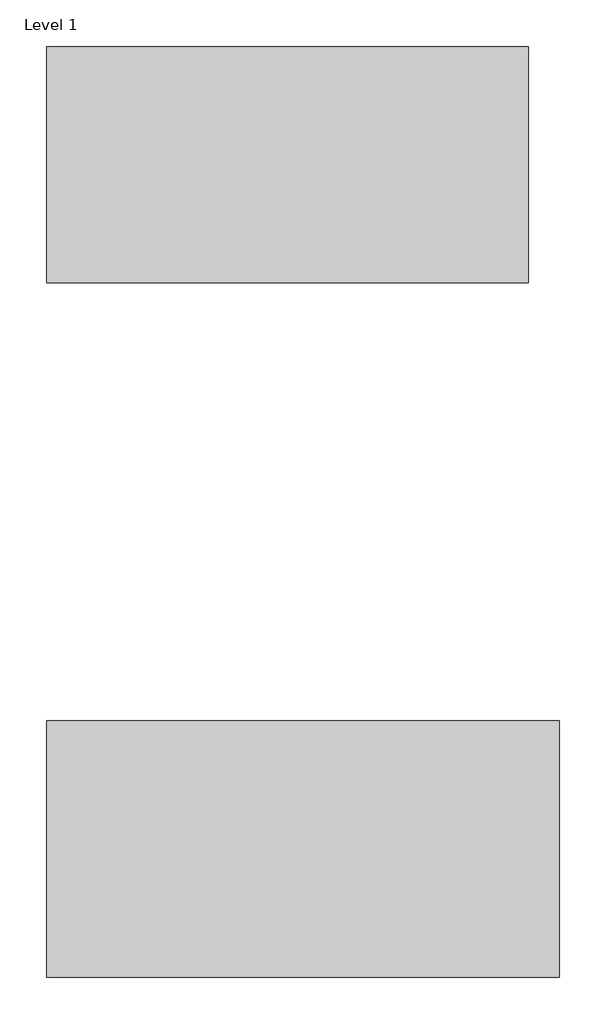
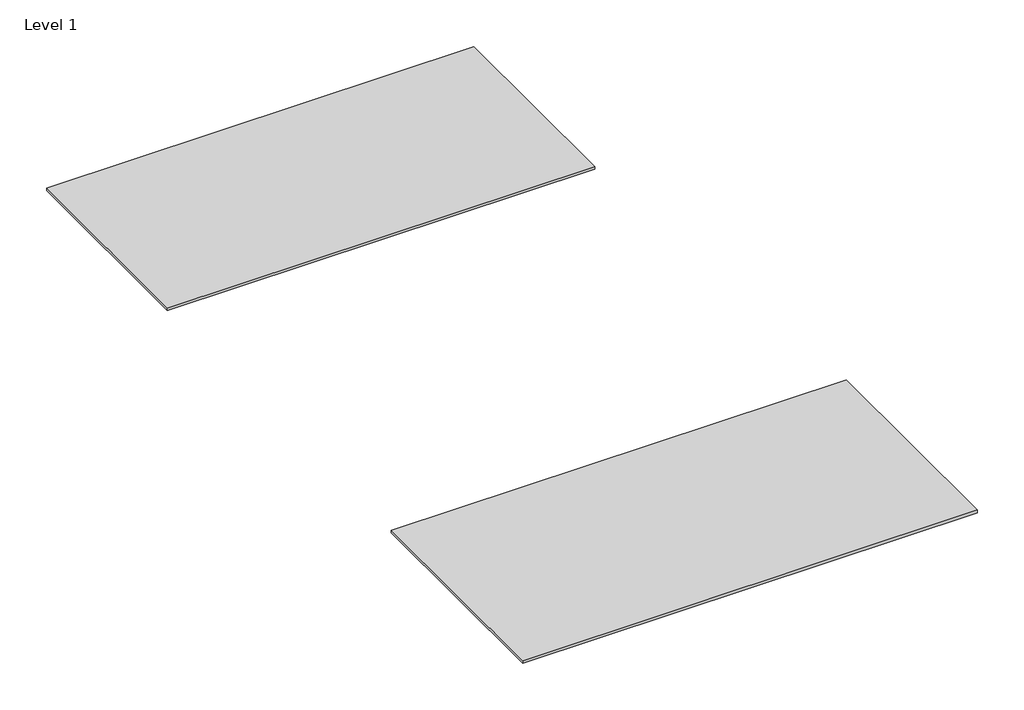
# One storey: 2 furniture elements.
"""IFC4 building model written with IfcOpenShell, lengths in millimetres."""

import ifcopenshell
import ifcopenshell.guid

model = None  # the IFC model being written
_history = None  # IfcOwnerHistory: only IFC2X3 demands one
_inside = {}  # id of a spatial element -> (the spatial element, [elements in it])
_under = {}  # id of a project, library or spatial element -> (it, [spatial elements below it])
_declared = {}  # id of a project -> (the project, [libraries it declares])
_typed = {}  # id of a type object -> (the type object, [elements of that type])
_made_of = {}  # id of a material, layer set ... -> (it, [elements and type objects made of it])


def new_model(schema):
    """Start an empty IFC model of exactly this schema.

    Asked for "IFC4X3", IfcOpenShell would pick the latest addendum, in which some entities
    have other attributes; the version numbers below select the first issue.
    IFC2X3 requires an IfcOwnerHistory on every rooted entity: one is made here for all.
    """
    global model, _history
    if schema == "IFC4X3":
        model = ifcopenshell.file(schema_version=(4, 3, 0, 0))
    else:
        model = ifcopenshell.file(schema=schema)
    _inside.clear()
    _under.clear()
    _declared.clear()
    _typed.clear()
    _made_of.clear()
    _history = None
    if model.schema == "IFC2X3":
        org = make("IfcOrganization", Name="unknown")
        user = make(
            "IfcPersonAndOrganization",
            ThePerson=make("IfcPerson", FamilyName="unknown"),
            TheOrganization=org,
        )
        app = make(
            "IfcApplication",
            ApplicationDeveloper=org,
            Version="unknown",
            ApplicationFullName="unknown",
            ApplicationIdentifier="unknown",
        )
        _history = make(
            "IfcOwnerHistory",
            OwningUser=user,
            OwningApplication=app,
            ChangeAction="ADDED",
            CreationDate=0,
        )
    return model


def make(cls, **values):
    """One entity of the class cls with the attributes given. An attribute that is None is left unset."""
    return model.create_entity(
        cls, **{name: value for name, value in values.items() if value is not None}
    )


def rooted(cls, **values):
    """An entity with a GlobalId (a new one), such as an element, a storey or a relation."""
    return make(cls, GlobalId=ifcopenshell.guid.new(), OwnerHistory=_history, **values)


def si_unit(unit_type, name, prefix=None):
    """IfcSIUnit, for example si_unit("LENGTHUNIT", "METRE", prefix="MILLI")."""
    return make("IfcSIUnit", UnitType=unit_type, Prefix=prefix, Name=name)


def assignment(units):
    """IfcUnitAssignment: the units of a project."""
    return None if units is None else make("IfcUnitAssignment", Units=units)


def point(xyz):
    """IfcCartesianPoint."""
    return None if xyz is None else make("IfcCartesianPoint", Coordinates=xyz)


def direction(xyz):
    """IfcDirection."""
    return None if xyz is None else make("IfcDirection", DirectionRatios=xyz)


def frame(location, z_axis=None, x_axis=None):
    """IfcAxis2Placement3D, a coordinate frame: its origin and axes. An axis left out is left unset."""
    return make(
        "IfcAxis2Placement3D",
        Location=point(location),
        Axis=direction(z_axis),
        RefDirection=direction(x_axis),
    )


def origin():
    """The frame at (0, 0, 0) with its axes left unset."""
    return frame((0.0, 0.0, 0.0))


def origin_with_axes():
    """The frame at (0, 0, 0) with the z axis (0, 0, 1) and the x axis (1, 0, 0) written out."""
    return frame((0.0, 0.0, 0.0), z_axis=(0.0, 0.0, 1.0), x_axis=(1.0, 0.0, 0.0))


def place(relative_to, where):
    """IfcLocalPlacement: puts the frame where relative to a parent placement (None: the world)."""
    return make(
        "IfcLocalPlacement", PlacementRelTo=relative_to, RelativePlacement=where
    )


def context(
    kind, dimensions, precision=None, world=None, true_north=None, identifier=None
):
    """IfcGeometricRepresentationContext, for example the 3D "Model" context."""
    return make(
        "IfcGeometricRepresentationContext",
        ContextIdentifier=identifier,
        ContextType=kind,
        CoordinateSpaceDimension=dimensions,
        Precision=precision,
        WorldCoordinateSystem=world,
        TrueNorth=true_north,
    )


def project(units=None, contexts=None):
    """IfcProject with its units and contexts."""
    return rooted(
        "IfcProject",
        Name="project",
        RepresentationContexts=contexts,
        UnitsInContext=assignment(units),
    )


def spatial(cls, under=None, at=None, **own):
    """A site, building, storey or space (cls), placed at a placement, below another one or the project."""
    s = rooted(cls, ObjectPlacement=at, **own)
    if under is not None:
        _under.setdefault(under.id(), (under, []))[1].append(s)
    return s


def polyline(points):
    """IfcPolyline through the points."""
    return make("IfcPolyline", Points=[point(p) for p in points])


def outline(outer, holes=None, kind="AREA"):
    """IfcArbitraryClosedProfileDef: a profile drawn as a closed curve; with holes, ...WithVoids."""
    if holes is None:
        return make("IfcArbitraryClosedProfileDef", ProfileType=kind, OuterCurve=outer)
    return make(
        "IfcArbitraryProfileDefWithVoids",
        ProfileType=kind,
        OuterCurve=outer,
        InnerCurves=holes,
    )


def extrude(swept, where, along, depth):
    """IfcExtrudedAreaSolid: the profile swept, set in the frame where, extruded along a direction by depth."""
    return make(
        "IfcExtrudedAreaSolid",
        SweptArea=swept,
        Position=where,
        ExtrudedDirection=direction(along),
        Depth=depth,
    )


def shape(context_of_items, identifier, shape_type, items):
    """IfcShapeRepresentation: the items that make up one representation, for example the "Body"."""
    return make(
        "IfcShapeRepresentation",
        ContextOfItems=context_of_items,
        RepresentationIdentifier=identifier,
        RepresentationType=shape_type,
        Items=items,
    )


def source(mapping_origin, context_of_items, identifier, shape_type, items):
    """IfcRepresentationMap: a shape defined once, which mapped items show again and again."""
    return make(
        "IfcRepresentationMap",
        MappingOrigin=mapping_origin,
        MappedRepresentation=shape(context_of_items, identifier, shape_type, items),
    )


def transform(
    local_origin,
    x_axis=None,
    y_axis=None,
    z_axis=None,
    scale=None,
    scale2=None,
    scale3=None,
    uniform=True,
):
    """IfcCartesianTransformationOperator3D, or its non-uniform kind. x_axis, y_axis, z_axis: its Axis1, 2, 3."""
    if uniform:
        return make(
            "IfcCartesianTransformationOperator3D",
            Axis1=direction(x_axis),
            Axis2=direction(y_axis),
            LocalOrigin=point(local_origin),
            Scale=scale,
            Axis3=direction(z_axis),
        )
    return make(
        "IfcCartesianTransformationOperator3DnonUniform",
        Axis1=direction(x_axis),
        Axis2=direction(y_axis),
        LocalOrigin=point(local_origin),
        Scale=scale,
        Axis3=direction(z_axis),
        Scale2=scale2,
        Scale3=scale3,
    )


def mapped(mapping_source, mapping_target):
    """IfcMappedItem: shows the shape of a source again, moved by a transform."""
    return make(
        "IfcMappedItem", MappingSource=mapping_source, MappingTarget=mapping_target
    )


def made_of(thing, what):
    """Note that an element or type object is made of a material, layer set ...; save() writes the relation."""
    if what is not None:
        _made_of.setdefault(what.id(), (what, []))[1].append(thing)
    return thing


def element(
    cls,
    number,
    at=None,
    inside=None,
    cuts=None,
    type_object=None,
    material=None,
    context=None,
    identifier="Body",
    shape_type=None,
    held_by="IfcProductDefinitionShape",
    body=None,
    shapes=None,
    **own,
):
    """One element of the class cls, such as IfcWall. Its Tag is "e" and its number.

    at: its placement. inside: the storey or other place that contains it. cuts: it is an
    opening in that element (IfcRelVoidsElement). A single representation is given by context,
    identifier, shape_type and body (its items); several are given by shapes. held_by: the class
    of the entity that holds the representations. save() writes the other relations.
    """
    e = rooted(cls, Tag="e%d" % number, ObjectPlacement=at, **own)
    if body is not None:
        shapes = [shape(context, identifier, shape_type, body)]
    if shapes is not None:
        e.Representation = make(held_by, Representations=shapes)
    if inside is not None:
        _inside.setdefault(inside.id(), (inside, []))[1].append(e)
    if cuts is not None:
        rooted(
            "IfcRelVoidsElement", RelatingBuildingElement=cuts, RelatedOpeningElement=e
        )
    if type_object is not None:
        _typed.setdefault(type_object.id(), (type_object, []))[1].append(e)
    return made_of(e, material)


def aggregate(whole, parts):
    """IfcRelAggregates: a whole, such as a stair, and the parts it consists of."""
    return rooted("IfcRelAggregates", RelatingObject=whole, RelatedObjects=parts)


def save(model, path):
    """Write the relations noted so far, then the file.

    IfcRelAggregates (storeys below a building ...), IfcRelContainedInSpatialStructure (elements
    in a storey), IfcRelDefinesByType, IfcRelAssociatesMaterial and IfcRelDeclares: one each for
    every whole, place, type object, material and project.
    """
    for whole, parts in _under.values():
        aggregate(whole, parts)
    for where, things in _inside.values():
        rooted(
            "IfcRelContainedInSpatialStructure",
            RelatedElements=things,
            RelatingStructure=where,
        )
    for kind, things in _typed.values():
        rooted("IfcRelDefinesByType", RelatedObjects=things, RelatingType=kind)
    for what, things in _made_of.values():
        rooted("IfcRelAssociatesMaterial", RelatedObjects=things, RelatingMaterial=what)
    for by, libraries in _declared.values():
        rooted("IfcRelDeclares", RelatingContext=by, RelatedDefinitions=libraries)
    model.write(path)


def furniture_ea33b4cf(model_context):
    return source(origin(), model_context, "Body", "SweptSolid", [
        extrude(outline(polyline([(1650.0, 825.0), (1650.0, -825.0), (-1650.0, -825.0), (-1650.0, 825.0), (1650.0, 825.0)])), origin_with_axes(), (0.0, 0.0, 1.0), 20.0),
    ])


def furniture_22a8cda6(model_context):
    return source(origin(), model_context, "Body", "SweptSolid", [
        extrude(outline(polyline([(1550.0, 760.0), (1550.0, -760.0), (-1550.0, -760.0), (-1550.0, 760.0), (1550.0, 760.0)])), origin_with_axes(), (0.0, 0.0, 1.0), 20.0),
    ])


model = new_model("IFC4")

# Units and contexts
model_context = context("Model", 3, world=origin())
ifc_project = project(units=[si_unit("LENGTHUNIT", "METRE", prefix="MILLI")], contexts=[model_context])

# Site, building, storey
site = spatial("IfcSite", under=ifc_project)
building = spatial("IfcBuilding", under=site)
storey = spatial("IfcBuildingStorey", under=building, Name="Level 1", Elevation=0.0)

# Furniture
placement = place(None, origin())
furniture_shape = furniture_ea33b4cf(model_context)
element("IfcFurniture", 1, ObjectType="BELENCO_CalacattaVerona_8119_165cmx330cm : BELENCO__CalacattaVerona_8119_165cm*330cm", at=placement, inside=storey, context=model_context, shape_type="MappedRepresentation", body=[
    mapped(furniture_shape, transform((-1601.0450676, 1163.7754875, 0.0), x_axis=(1.0, 0.0, 0.0), y_axis=(0.0, 1.0, 0.0), z_axis=(0.0, 0.0, 1.0))),
])
furniture_2_shape = furniture_22a8cda6(model_context)
element("IfcFurniture", 2, ObjectType="BELENCO_CalacattaVerona_8119_152cmx310cm : BELENCO__CalacattaVerona_8119_152cm*310cm", at=placement, inside=storey, context=model_context, shape_type="MappedRepresentation", body=[
    mapped(furniture_2_shape, transform((-1701.0450676, 5563.7754875, 0.0), x_axis=(1.0, 0.0, 0.0), y_axis=(0.0, 1.0, 0.0), z_axis=(0.0, 0.0, 1.0))),
])

save(model, "model.ifc")
